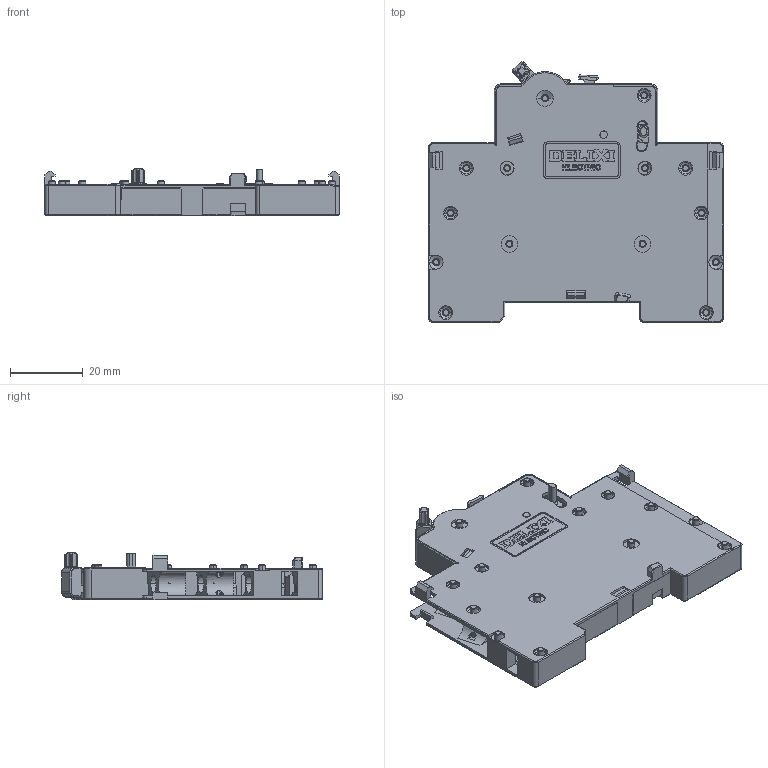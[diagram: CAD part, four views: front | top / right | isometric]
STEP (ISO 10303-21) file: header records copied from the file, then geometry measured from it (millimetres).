
FILE_DESCRIPTION((''),'2;1');
FILE_NAME('2297006800_SW0001','2023-11-09T',('dufeng.zhai'),(''),'PRO/ENGINEER BY PARAMETRIC TECHNOLOGY CORPORATION, 2015440','PRO/ENGINEER BY PARAMETRIC TECHNOLOGY CORPORATION, 2015440','');
FILE_SCHEMA(('CONFIG_CONTROL_DESIGN'));
Products named in the file (1): 2297006800_SW0001
Bounding box: 80.8 x 71.56 x 12.95 mm (x, y, z)
Volume: 29282.3 mm3; surface area: 22025.9 mm2
Topology: 1 solids, 1 shells, 2042 faces, 5693 edges, 3667 vertices
Faces by surface type: plane 1346, cylinder 399, cone 133, bspline 60, torus 59, extrusion 43, sphere 2
Entity records: 69388 total; most frequent: CARTESIAN_POINT 17589, ORIENTED_EDGE 11380, DIRECTION 9922, EDGE_CURVE 5690, VECTOR 4100, LINE 4057, VERTEX_POINT 3667, AXIS2_PLACEMENT_3D 2911
